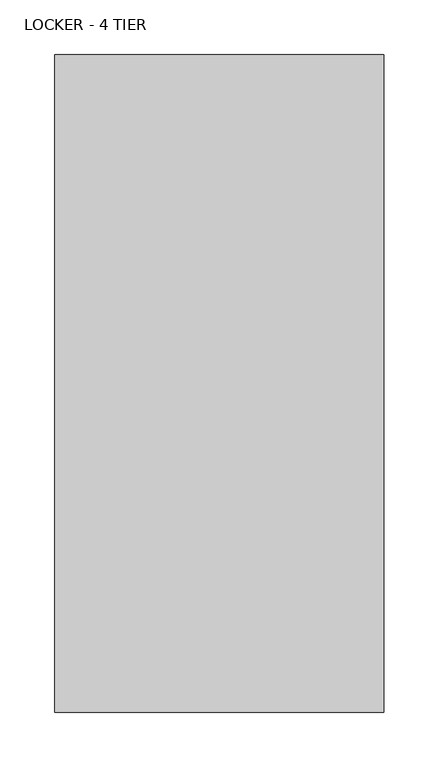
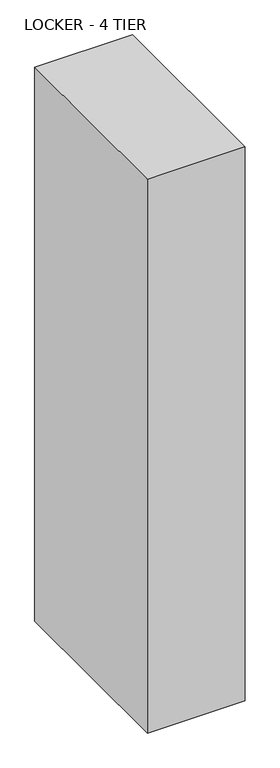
"""IFC4 building model written with IfcOpenShell, lengths in millimetres: proxy geometry, LOCKER - VARIOUS : LOCKER - 4 TIER."""

from ifc_helpers import new_model, si_unit, origin, origin_with_axes, place, context, project, spatial, polyline, outline, extrude, source, transform, mapped, element, save


def locker_4_tier_4ed8d849(model_context):
    return source(origin(), model_context, "Body", "SweptSolid", [
        extrude(outline(polyline([(150.0, 237.0699514), (-150.0, 237.0699514), (-150.0, 837.0699514), (150.0, 837.0699514), (150.0, 237.0699514)])), origin_with_axes(), (0.0, 0.0, 1.0), 1800.0),
    ])


if __name__ == "__main__":
    model = new_model("IFC4")
    model_context = context("Model", 3, world=origin())
    ifc_project = project(units=[si_unit("LENGTHUNIT", "METRE", prefix="MILLI")], contexts=[model_context])
    site = spatial("IfcSite", under=ifc_project)
    building = spatial("IfcBuilding", under=site)
    placement = place(None, origin())
    locker_4_tier_shape = locker_4_tier_4ed8d849(model_context)
    element("IfcBuildingElementProxy", 1, Name="LOCKER - VARIOUS : LOCKER - 4 TIER", ObjectType="LOCKER - VARIOUS : LOCKER - 4 TIER", at=placement, inside=building, context=model_context, shape_type="MappedRepresentation", body=[
        mapped(locker_4_tier_shape, transform((0.0, 0.0, 0.0), x_axis=(1.0, 0.0, 0.0), y_axis=(0.0, 1.0, 0.0), z_axis=(0.0, 0.0, 1.0))),
    ])
    save(model, "model.ifc")
